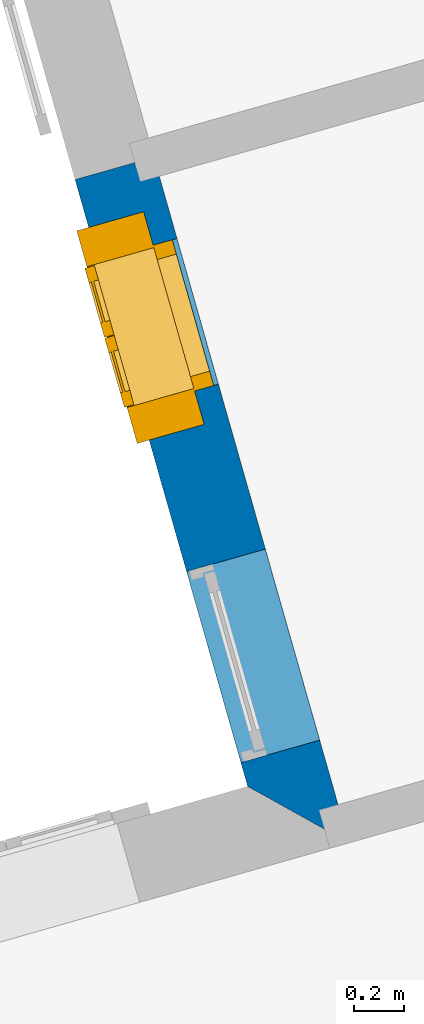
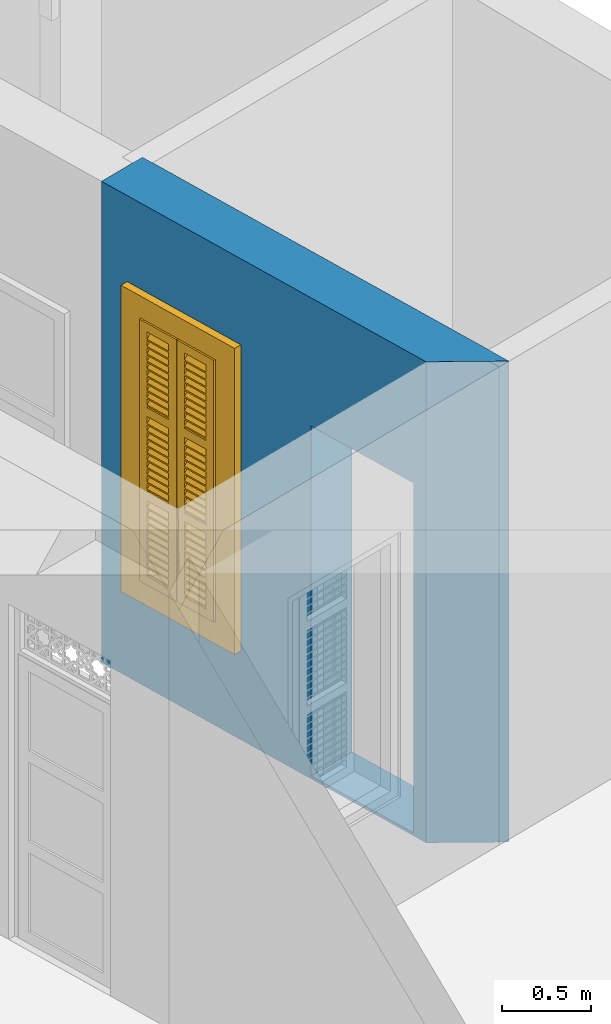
# One storey, part 8 of 14: 1 wall, 1 window, 2 openings.
"""IFC4 building model written with IfcOpenShell, lengths in metres."""

from ifc_helpers import new_model, si_unit, frame, origin, origin_with_axes, place, context, subcontext, project, spatial, polyline, outline, extrude, faceted_brep, source, transform, mapped, material, layer, layer_set, layer_usage, type_object, type_shapes, element, fill, save


model = new_model("IFC4")

# Units and contexts
model_context = context("Model", 3, world=origin_with_axes())
body_context = subcontext(model_context, "Body", "Model", "MODEL_VIEW")
ifc_project = project(units=[si_unit("PLANEANGLEUNIT", "RADIAN"), si_unit("MASSUNIT", "GRAM", prefix="KILO"), si_unit("FORCEUNIT", "NEWTON", prefix="KILO"), si_unit("LENGTHUNIT", "METRE"), si_unit("AREAUNIT", "SQUARE_METRE"), si_unit("VOLUMEUNIT", "CUBIC_METRE")], contexts=[model_context, model_context])

# Site, building, storey
site_placement = place(None, origin_with_axes())
site = spatial("IfcSite", under=ifc_project, at=site_placement, Name="Site plot-3", CompositionType="ELEMENT")
building_placement = place(None, origin_with_axes())
building = spatial("IfcBuilding", under=site, at=building_placement, Name="Building plot-3", CompositionType="ELEMENT")
storey_placement = place(None, origin_with_axes())
storey = spatial("IfcBuildingStorey", under=building, at=storey_placement, Name="plot-3 0", CompositionType="ELEMENT", Elevation=0.0)

# Wall, openings, window
ifc_material = material(Name="Masonry")
ifc_layer = layer(ifc_material, 0.33, ventilated=False)
ifc_layer_set = layer_set([ifc_layer], Name="exterior_0.08_0.25")
ifc_layer_usage = layer_usage(ifc_layer_set, "AXIS2", "POSITIVE", -0.25)
wall_type = type_object("IfcWallType", Name="exterior_0.08_0.25", PredefinedType="SOLIDWALL", material=ifc_layer_set)
wall_placement = place(storey_placement, frame((13.2483149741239, 23.0706030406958, 0.0), z_axis=(0.0, 0.0, 1.0), x_axis=(0.273606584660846, -0.961841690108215, 0.0)))
wall = element("IfcWall", 1, at=wall_placement, inside=storey, type_object=wall_type, material=ifc_layer_usage, Name="exterior", context=body_context, shape_type="SweptSolid", body=[
    extrude(outline(polyline([(1.87007326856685e-15, 0.0800000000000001), (-5.37499477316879e-15, -0.25), (2.54101093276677, -0.250000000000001), (2.87101093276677, 0.0800000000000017), (1.87007326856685e-15, 0.0800000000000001)])), origin_with_axes(), (0.0, 0.0, 1.0), 3.3),
])
opening_1_placement = place(wall_placement, frame((0.340505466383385, 0.0, 0.75)))
opening_1 = element("IfcOpeningElement", 2, at=opening_1_placement, cuts=wall, Name="My Opening", ObjectType="Opening", context=body_context, shape_type="SweptSolid", body=[
    extrude(outline(polyline([(0.0, -0.269999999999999), (0.610000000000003, -0.27), (0.610000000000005, 1.1), (1.94289029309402e-15, 1.1), (0.0, -0.269999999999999)])), origin_with_axes(), (0.0, 0.0, 1.0), 1.82),
])
opening_2_placement = place(wall_placement, frame((1.64101093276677, 0.0, 0.02)))
element("IfcOpeningElement", 3, at=opening_2_placement, cuts=wall, Name="My Opening", ObjectType="Opening", context=body_context, shape_type="SweptSolid", body=[
    extrude(outline(polyline([(0.0, -0.270000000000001), (0.799999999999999, -0.270000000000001), (0.8, 1.1), (1.33226762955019e-15, 1.1), (0.0, -0.270000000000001)])), origin_with_axes(), (0.0, 0.0, 1.0), 2.4),
])
window_type = type_object("IfcWindowType", Name="shuttered_big_narrow", PartitioningType="DOUBLE_PANEL_HORIZONTAL", PredefinedType="NOTDEFINED")
shared_shape = source(origin(), body_context, "Body", "Brep", [
    faceted_brep([(0.074, 0.0, 0.810667), (0.243, 0.0, 0.810667), (0.243, 0.0, 0.800667), (0.074, 0.0, 0.800667), (0.074, -0.04, 0.770667), (0.243, -0.04, 0.770667), (0.243, -0.04, 0.760667), (0.074, -0.04, 0.760667), (0.367, 0.0, 0.232), (0.536, 0.0, 0.232), (0.536, 0.0, 0.222), (0.367, 0.0, 0.222), (0.367, -0.04, 0.192), (0.536, -0.04, 0.192), (0.536, -0.04, 0.182), (0.367, -0.04, 0.182), (0.367, 0.0, 0.532), (0.536, 0.0, 0.532), (0.536, 0.0, 0.522), (0.367, 0.0, 0.522), (0.367, -0.04, 0.492), (0.536, -0.04, 0.492), (0.536, -0.04, 0.482), (0.367, -0.04, 0.482), (0.367, 0.0, 0.482), (0.536, 0.0, 0.482), (0.536, 0.0, 0.472), (0.367, 0.0, 0.472), (0.367, -0.04, 0.442), (0.536, -0.04, 0.442), (0.536, -0.04, 0.432), (0.367, -0.04, 0.432), (0.367, 0.0, 0.582), (0.536, 0.0, 0.582), (0.536, 0.0, 0.572), (0.367, 0.0, 0.572), (0.367, -0.04, 0.542), (0.536, -0.04, 0.542), (0.536, -0.04, 0.532), (0.367, -0.04, 0.532), (0.367, 0.0, 0.182), (0.536, 0.0, 0.182), (0.536, 0.0, 0.172), (0.367, 0.0, 0.172), (0.367, -0.04, 0.142), (0.536, -0.04, 0.142), (0.536, -0.04, 0.132), (0.367, -0.04, 0.132), (0.367, 0.0, 0.382), (0.536, 0.0, 0.382), (0.536, 0.0, 0.372), (0.367, 0.0, 0.372), (0.367, -0.04, 0.342), (0.536, -0.04, 0.342), (0.536, -0.04, 0.332), (0.367, -0.04, 0.332), (0.367, 0.0, 0.432), (0.536, 0.0, 0.432), (0.536, 0.0, 0.422), (0.367, 0.0, 0.422), (0.367, -0.04, 0.392), (0.536, -0.04, 0.392), (0.536, -0.04, 0.382), (0.367, -0.04, 0.382), (0.367, 0.0, 0.132), (0.536, 0.0, 0.132), (0.536, 0.0, 0.122), (0.367, 0.0, 0.122), (0.367, -0.04, 0.092), (0.536, -0.04, 0.092), (0.536, -0.04, 0.082), (0.367, -0.04, 0.082), (0.367, 0.0, 0.282), (0.536, 0.0, 0.282), (0.536, 0.0, 0.272), (0.367, 0.0, 0.272), (0.367, -0.04, 0.242), (0.536, -0.04, 0.242), (0.536, -0.04, 0.232), (0.367, -0.04, 0.232), (0.367, 0.0, 0.332), (0.536, 0.0, 0.332), (0.536, 0.0, 0.322), (0.367, 0.0, 0.322), (0.367, -0.04, 0.292), (0.536, -0.04, 0.292), (0.536, -0.04, 0.282), (0.367, -0.04, 0.282), (0.367, 0.0, 0.810667), (0.536, 0.0, 0.810667), (0.536, 0.0, 0.800667), (0.367, 0.0, 0.800667), (0.367, -0.04, 0.770667), (0.536, -0.04, 0.770667), (0.536, -0.04, 0.760667), (0.367, -0.04, 0.760667), (0.367, 0.0, 1.110667), (0.536, 0.0, 1.110667), (0.536, 0.0, 1.100667), (0.367, 0.0, 1.100667), (0.367, -0.04, 1.070667), (0.536, -0.04, 1.070667), (0.536, -0.04, 1.060667), (0.367, -0.04, 1.060667), (0.367, 0.0, 1.060667), (0.536, 0.0, 1.060667), (0.536, 0.0, 1.050667), (0.367, 0.0, 1.050667), (0.367, -0.04, 1.020667), (0.536, -0.04, 1.020667), (0.536, -0.04, 1.010667), (0.367, -0.04, 1.010667), (0.367, 0.0, 1.160667), (0.536, 0.0, 1.160667), (0.536, 0.0, 1.150667), (0.367, 0.0, 1.150667), (0.367, -0.04, 1.120667), (0.536, -0.04, 1.120667), (0.536, -0.04, 1.110667), (0.367, -0.04, 1.110667), (0.367, 0.0, 0.760667), (0.536, 0.0, 0.760667), (0.536, 0.0, 0.750667), (0.367, 0.0, 0.750667), (0.367, -0.04, 0.720667), (0.536, -0.04, 0.720667), (0.536, -0.04, 0.710667), (0.367, -0.04, 0.710667), (0.367, 0.0, 0.960667), (0.536, 0.0, 0.960667), (0.536, 0.0, 0.950667), (0.367, 0.0, 0.950667), (0.367, -0.04, 0.920667), (0.536, -0.04, 0.920667), (0.536, -0.04, 0.910667), (0.367, -0.04, 0.910667), (0.367, 0.0, 1.010667), (0.536, 0.0, 1.010667), (0.536, 0.0, 1.0), (0.367, 0.0, 1.0), (0.367, -0.04, 0.970667), (0.536, -0.04, 0.970667), (0.536, -0.04, 0.960667), (0.367, -0.04, 0.960667), (0.367, 0.0, 0.710667), (0.536, 0.0, 0.710667), (0.536, 0.0, 0.700667), (0.367, 0.0, 0.700667), (0.367, -0.04, 0.670667), (0.536, -0.04, 0.670667), (0.536, -0.04, 0.660667), (0.367, -0.04, 0.660667), (0.367, 0.0, 0.860667), (0.536, 0.0, 0.860667), (0.536, 0.0, 0.850667), (0.367, 0.0, 0.850667), (0.367, -0.04, 0.820667), (0.536, -0.04, 0.820667), (0.536, -0.04, 0.810667), (0.367, -0.04, 0.810667), (0.367, 0.0, 0.910667), (0.536, 0.0, 0.910667), (0.536, 0.0, 0.900667), (0.367, 0.0, 0.900667), (0.367, -0.04, 0.870667), (0.536, -0.04, 0.870667), (0.536, -0.04, 0.860667), (0.367, -0.04, 0.860667), (0.367, 0.0, 1.389333), (0.536, 0.0, 1.389333), (0.536, 0.0, 1.379333), (0.367, 0.0, 1.379333), (0.367, -0.04, 1.349333), (0.536, -0.04, 1.349333), (0.536, -0.04, 1.339333), (0.367, -0.04, 1.339333), (0.367, 0.0, 1.689333), (0.536, 0.0, 1.689333), (0.536, 0.0, 1.679333), (0.367, 0.0, 1.679333), (0.367, -0.04, 1.649333), (0.536, -0.04, 1.649333), (0.536, -0.04, 1.639333), (0.367, -0.04, 1.639333), (0.367, 0.0, 1.639333), (0.536, 0.0, 1.639333), (0.536, 0.0, 1.629333), (0.367, 0.0, 1.629333), (0.367, -0.04, 1.599333), (0.536, -0.04, 1.599333), (0.536, -0.04, 1.589333), (0.367, -0.04, 1.589333), (0.367, 0.0, 1.739333), (0.536, 0.0, 1.739333), (0.536, 0.0, 1.729333), (0.367, 0.0, 1.729333), (0.367, -0.04, 1.699333), (0.536, -0.04, 1.699333), (0.536, -0.04, 1.689333), (0.367, -0.04, 1.689333), (0.367, 0.0, 1.339333), (0.536, 0.0, 1.339333), (0.536, 0.0, 1.329333), (0.367, 0.0, 1.329333), (0.367, -0.04, 1.299333), (0.536, -0.04, 1.299333), (0.536, -0.04, 1.289333), (0.367, -0.04, 1.289333), (0.367, 0.0, 1.539333), (0.536, 0.0, 1.539333), (0.536, 0.0, 1.529333), (0.367, 0.0, 1.529333), (0.367, -0.04, 1.499333), (0.536, -0.04, 1.499333), (0.536, -0.04, 1.489333), (0.367, -0.04, 1.489333), (0.367, 0.0, 1.589333), (0.536, 0.0, 1.589333), (0.536, 0.0, 1.579333), (0.367, 0.0, 1.579333), (0.367, -0.04, 1.549333), (0.536, -0.04, 1.549333), (0.536, -0.04, 1.539333), (0.367, -0.04, 1.539333), (0.367, 0.0, 1.289333), (0.536, 0.0, 1.289333), (0.536, 0.0, 1.279333), (0.367, 0.0, 1.279333), (0.367, -0.04, 1.249333), (0.536, -0.04, 1.249333), (0.536, -0.04, 1.239333), (0.367, -0.04, 1.239333), (0.367, 0.0, 1.439333), (0.536, 0.0, 1.439333), (0.536, 0.0, 1.429333), (0.367, 0.0, 1.429333), (0.367, -0.04, 1.399333), (0.536, -0.04, 1.399333), (0.536, -0.04, 1.389333), (0.367, -0.04, 1.389333), (0.367, 0.0, 1.489333), (0.536, 0.0, 1.489333), (0.536, 0.0, 1.479333), (0.367, 0.0, 1.479333), (0.367, -0.04, 1.449333), (0.536, -0.04, 1.449333), (0.536, -0.04, 1.439333), (0.367, -0.04, 1.439333), (0.074, 0.0, 0.232), (0.243, 0.0, 0.232), (0.243, 0.0, 0.222), (0.074, 0.0, 0.222), (0.074, -0.04, 0.192), (0.243, -0.04, 0.192), (0.243, -0.04, 0.182), (0.074, -0.04, 0.182), (0.074, 0.0, 0.532), (0.243, 0.0, 0.532), (0.243, 0.0, 0.522), (0.074, 0.0, 0.522), (0.074, -0.04, 0.492), (0.243, -0.04, 0.492), (0.243, -0.04, 0.482), (0.074, -0.04, 0.482), (0.074, 0.0, 0.482), (0.243, 0.0, 0.482), (0.243, 0.0, 0.472), (0.074, 0.0, 0.472), (0.074, -0.04, 0.442), (0.243, -0.04, 0.442), (0.243, -0.04, 0.432), (0.074, -0.04, 0.432), (0.074, 0.0, 0.582), (0.243, 0.0, 0.582), (0.243, 0.0, 0.572), (0.074, 0.0, 0.572), (0.074, -0.04, 0.542), (0.243, -0.04, 0.542), (0.243, -0.04, 0.532), (0.074, -0.04, 0.532), (0.074, 0.0, 0.182), (0.243, 0.0, 0.182), (0.243, 0.0, 0.172), (0.074, 0.0, 0.172), (0.074, -0.04, 0.142), (0.243, -0.04, 0.142), (0.243, -0.04, 0.132), (0.074, -0.04, 0.132), (0.074, 0.0, 0.382), (0.243, 0.0, 0.382), (0.243, 0.0, 0.372), (0.074, 0.0, 0.372), (0.074, -0.04, 0.342), (0.243, -0.04, 0.342), (0.243, -0.04, 0.332), (0.074, -0.04, 0.332), (0.074, 0.0, 0.432), (0.243, 0.0, 0.432), (0.243, 0.0, 0.422), (0.074, 0.0, 0.422), (0.074, -0.04, 0.392), (0.243, -0.04, 0.392), (0.243, -0.04, 0.382), (0.074, -0.04, 0.382), (0.074, 0.0, 0.132), (0.243, 0.0, 0.132), (0.243, 0.0, 0.122), (0.074, 0.0, 0.122), (0.074, -0.04, 0.092), (0.243, -0.04, 0.092), (0.243, -0.04, 0.082), (0.074, -0.04, 0.082), (0.074, 0.0, 0.282), (0.243, 0.0, 0.282), (0.243, 0.0, 0.272), (0.074, 0.0, 0.272), (0.074, -0.04, 0.242), (0.243, -0.04, 0.242), (0.243, -0.04, 0.232), (0.074, -0.04, 0.232), (0.074, 0.0, 0.332), (0.243, 0.0, 0.332), (0.243, 0.0, 0.322), (0.074, 0.0, 0.322), (0.074, -0.04, 0.292), (0.243, -0.04, 0.292), (0.243, -0.04, 0.282), (0.074, -0.04, 0.282), (0.074, 0.0, 1.110667), (0.243, 0.0, 1.110667), (0.243, 0.0, 1.100667), (0.074, 0.0, 1.100667), (0.074, -0.04, 1.070667), (0.243, -0.04, 1.070667), (0.243, -0.04, 1.060667), (0.074, -0.04, 1.060667), (0.074, 0.0, 1.060667), (0.243, 0.0, 1.060667), (0.243, 0.0, 1.050667), (0.074, 0.0, 1.050667), (0.074, -0.04, 1.020667), (0.243, -0.04, 1.020667), (0.243, -0.04, 1.010667), (0.074, -0.04, 1.010667), (0.074, 0.0, 1.160667), (0.243, 0.0, 1.160667), (0.243, 0.0, 1.150667), (0.074, 0.0, 1.150667), (0.074, -0.04, 1.120667), (0.243, -0.04, 1.120667), (0.243, -0.04, 1.110667), (0.074, -0.04, 1.110667), (0.074, 0.0, 0.760667), (0.243, 0.0, 0.760667), (0.243, 0.0, 0.750667), (0.074, 0.0, 0.750667), (0.074, -0.04, 0.720667), (0.243, -0.04, 0.720667), (0.243, -0.04, 0.710667), (0.074, -0.04, 0.710667), (0.074, 0.0, 0.960667), (0.243, 0.0, 0.960667), (0.243, 0.0, 0.950667), (0.074, 0.0, 0.950667), (0.074, -0.04, 0.920667), (0.243, -0.04, 0.920667), (0.243, -0.04, 0.910667), (0.074, -0.04, 0.910667), (0.074, 0.0, 1.010667), (0.243, 0.0, 1.010667), (0.243, 0.0, 1.0), (0.074, 0.0, 1.0), (0.074, -0.04, 0.970667), (0.243, -0.04, 0.970667), (0.243, -0.04, 0.960667), (0.074, -0.04, 0.960667), (0.074, 0.0, 0.710667), (0.243, 0.0, 0.710667), (0.243, 0.0, 0.700667), (0.074, 0.0, 0.700667), (0.074, -0.04, 0.670667), (0.243, -0.04, 0.670667), (0.243, -0.04, 0.660667), (0.074, -0.04, 0.660667), (0.074, 0.0, 0.860667), (0.243, 0.0, 0.860667), (0.243, 0.0, 0.850667), (0.074, 0.0, 0.850667), (0.074, -0.04, 0.820667), (0.243, -0.04, 0.820667), (0.243, -0.04, 0.810667), (0.074, -0.04, 0.810667), (0.074, 0.0, 0.910667), (0.243, 0.0, 0.910667), (0.243, 0.0, 0.900667), (0.074, 0.0, 0.900667), (0.074, -0.04, 0.870667), (0.243, -0.04, 0.870667), (0.243, -0.04, 0.860667), (0.074, -0.04, 0.860667), (0.074, 0.0, 1.389333), (0.243, 0.0, 1.389333), (0.243, 0.0, 1.379333), (0.074, 0.0, 1.379333), (0.074, -0.04, 1.349333), (0.243, -0.04, 1.349333), (0.243, -0.04, 1.339333), (0.074, -0.04, 1.339333), (0.074, 0.0, 1.689333), (0.243, 0.0, 1.689333), (0.243, 0.0, 1.679333), (0.074, 0.0, 1.679333), (0.074, -0.04, 1.649333), (0.243, -0.04, 1.649333), (0.243, -0.04, 1.639333), (0.074, -0.04, 1.639333), (0.074, 0.0, 1.639333), (0.243, 0.0, 1.639333), (0.243, 0.0, 1.629333), (0.074, 0.0, 1.629333), (0.074, -0.04, 1.599333), (0.243, -0.04, 1.599333), (0.243, -0.04, 1.589333), (0.074, -0.04, 1.589333), (0.074, 0.0, 1.739333), (0.243, 0.0, 1.739333), (0.243, 0.0, 1.729333), (0.074, 0.0, 1.729333), (0.074, -0.04, 1.699333), (0.243, -0.04, 1.699333), (0.243, -0.04, 1.689333), (0.074, -0.04, 1.689333), (0.074, 0.0, 1.339333), (0.243, 0.0, 1.339333), (0.243, 0.0, 1.329333), (0.074, 0.0, 1.329333), (0.074, -0.04, 1.299333), (0.243, -0.04, 1.299333), (0.243, -0.04, 1.289333), (0.074, -0.04, 1.289333), (0.074, 0.0, 1.539333), (0.243, 0.0, 1.539333), (0.243, 0.0, 1.529333), (0.074, 0.0, 1.529333), (0.074, -0.04, 1.499333), (0.243, -0.04, 1.499333), (0.243, -0.04, 1.489333), (0.074, -0.04, 1.489333), (0.074, 0.0, 1.589333), (0.243, 0.0, 1.589333), (0.243, 0.0, 1.579333), (0.074, 0.0, 1.579333), (0.074, -0.04, 1.549333), (0.243, -0.04, 1.549333), (0.243, -0.04, 1.539333), (0.074, -0.04, 1.539333), (0.074, 0.0, 1.289333), (0.243, 0.0, 1.289333), (0.243, 0.0, 1.279333), (0.074, 0.0, 1.279333), (0.074, -0.04, 1.249333), (0.243, -0.04, 1.249333), (0.243, -0.04, 1.239333), (0.074, -0.04, 1.239333), (0.074, 0.0, 1.439333), (0.243, 0.0, 1.439333), (0.243, 0.0, 1.429333), (0.074, 0.0, 1.429333), (0.074, -0.04, 1.399333), (0.243, -0.04, 1.399333), (0.243, -0.04, 1.389333), (0.074, -0.04, 1.389333), (0.074, 0.0, 1.489333), (0.243, 0.0, 1.489333), (0.243, 0.0, 1.479333), (0.074, 0.0, 1.479333), (0.074, -0.04, 1.449333), (0.243, -0.04, 1.449333), (0.243, -0.04, 1.439333), (0.074, -0.04, 1.439333), (0.367, -0.04, 0.072), (0.307, -0.04, 0.012), (0.596, -0.04, 0.012), (0.536, -0.04, 0.072), (0.307, -0.04, 0.590667), (0.367, -0.04, 0.590667), (0.307, 0.0, 0.012), (0.596, 0.0, 0.012), (0.536, -0.04, 0.590667), (0.596, -0.04, 0.590667), (0.536, 0.0, 0.072), (0.367, 0.0, 0.072), (0.307, 0.0, 0.590667), (0.367, 0.0, 0.590667), (0.367, -0.04, 0.650667), (0.307, -0.04, 0.650667), (0.596, 0.0, 0.590667), (0.536, 0.0, 0.590667), (0.536, -0.04, 0.650667), (0.596, -0.04, 0.650667), (0.307, 0.0, 0.650667), (0.307, -0.04, 1.169333), (0.367, -0.04, 1.169333), (0.596, 0.0, 0.650667), (0.536, -0.04, 1.169333), (0.596, -0.04, 1.169333), (0.307, 0.0, 1.169333), (0.367, 0.0, 0.650667), (0.536, 0.0, 0.650667), (0.367, 0.0, 1.169333), (0.367, -0.04, 1.229333), (0.307, -0.04, 1.229333), (0.596, 0.0, 1.169333), (0.536, 0.0, 1.169333), (0.536, -0.04, 1.229333), (0.596, -0.04, 1.229333), (0.307, 0.0, 1.229333), (0.367, -0.04, 1.748), (0.307, -0.04, 1.808), (0.596, 0.0, 1.229333), (0.596, -0.04, 1.808), (0.536, -0.04, 1.748), (0.307, 0.0, 1.808), (0.367, 0.0, 1.229333), (0.536, 0.0, 1.229333), (0.367, 0.0, 1.748), (0.596, 0.0, 1.808), (0.536, 0.0, 1.748), (0.074, -0.04, 0.072), (0.014, -0.04, 0.012), (0.303, -0.04, 0.012), (0.243, -0.04, 0.072), (0.014, -0.04, 0.590667), (0.074, -0.04, 0.590667), (0.014, 0.0, 0.012), (0.303, 0.0, 0.012), (0.243, -0.04, 0.590667), (0.303, -0.04, 0.590667), (0.243, 0.0, 0.072), (0.074, 0.0, 0.072), (0.014, 0.0, 0.590667), (0.074, 0.0, 0.590667), (0.074, -0.04, 0.650667), (0.014, -0.04, 0.650667), (0.303, 0.0, 0.590667), (0.243, 0.0, 0.590667), (0.243, -0.04, 0.650667), (0.303, -0.04, 0.650667), (0.014, 0.0, 0.650667), (0.014, -0.04, 1.169333), (0.074, -0.04, 1.169333), (0.303, 0.0, 0.650667), (0.243, -0.04, 1.169333), (0.303, -0.04, 1.169333), (0.014, 0.0, 1.169333), (0.074, 0.0, 0.650667), (0.243, 0.0, 0.650667), (0.074, 0.0, 1.169333), (0.074, -0.04, 1.229333), (0.014, -0.04, 1.229333), (0.303, 0.0, 1.169333), (0.243, 0.0, 1.169333), (0.243, -0.04, 1.229333), (0.303, -0.04, 1.229333), (0.014, 0.0, 1.229333), (0.074, -0.04, 1.748), (0.014, -0.04, 1.808), (0.303, 0.0, 1.229333), (0.303, -0.04, 1.808), (0.243, -0.04, 1.748), (0.014, 0.0, 1.808), (0.074, 0.0, 1.229333), (0.243, 0.0, 1.229333), (0.074, 0.0, 1.748), (0.303, 0.0, 1.808), (0.243, 0.0, 1.748), (0.0, 0.33, 1.82), (0.61, 0.33, 1.82), (0.55, 0.33, 1.76), (0.06, 0.33, 1.76), (0.75, -0.03, 1.96), (0.75, 0.25, 1.96), (-0.14, 0.25, 1.96), (-0.14, -0.03, 1.96), (0.0, 0.25, 1.82), (0.61, 0.25, 1.82), (0.6, 0.25, 1.81), (0.01, 0.25, 1.81), (0.55, 0.33, 0.06), (0.61, 0.33, 0.0), (0.55, 0.25, 1.76), (0.06, 0.25, 1.76), (0.0, 0.33, 0.0), (0.06, 0.33, 0.06), (0.0, 0.25, 0.0), (0.610046, 0.25, 1.82), (0.61, 0.25, 0.0), (0.55, 0.25, 0.06), (0.06, 0.25, 0.06), (0.6, 0.25, 0.01), (0.6, -0.03, 0.01), (0.6, -0.03, 1.81), (0.01, -0.03, 0.01), (-0.14, -0.03, -0.14), (0.75, -0.03, -0.14), (0.01, -0.03, 1.81), (0.01, 0.25, 0.01), (0.75, 0.25, -0.14), (-0.14, 0.25, -0.14)], [[[0, 1, 2, 3]], [[1, 0, 4, 5]], [[2, 1, 5, 6]], [[6, 7, 3, 2]], [[7, 4, 0, 3]], [[5, 4, 7, 6]], [[8, 9, 10, 11]], [[12, 13, 9, 8]], [[13, 14, 10, 9]], [[14, 15, 11, 10]], [[15, 12, 8, 11]], [[13, 12, 15, 14]], [[16, 17, 18, 19]], [[20, 21, 17, 16]], [[21, 22, 18, 17]], [[22, 23, 19, 18]], [[23, 20, 16, 19]], [[21, 20, 23, 22]], [[24, 25, 26, 27]], [[28, 29, 25, 24]], [[29, 30, 26, 25]], [[30, 31, 27, 26]], [[31, 28, 24, 27]], [[29, 28, 31, 30]], [[32, 33, 34, 35]], [[36, 37, 33, 32]], [[37, 38, 34, 33]], [[38, 39, 35, 34]], [[39, 36, 32, 35]], [[37, 36, 39, 38]], [[40, 41, 42, 43]], [[44, 45, 41, 40]], [[45, 46, 42, 41]], [[46, 47, 43, 42]], [[47, 44, 40, 43]], [[45, 44, 47, 46]], [[48, 49, 50, 51]], [[52, 53, 49, 48]], [[53, 54, 50, 49]], [[54, 55, 51, 50]], [[55, 52, 48, 51]], [[53, 52, 55, 54]], [[56, 57, 58, 59]], [[60, 61, 57, 56]], [[61, 62, 58, 57]], [[62, 63, 59, 58]], [[63, 60, 56, 59]], [[61, 60, 63, 62]], [[64, 65, 66, 67]], [[68, 69, 65, 64]], [[69, 70, 66, 65]], [[70, 71, 67, 66]], [[71, 68, 64, 67]], [[69, 68, 71, 70]], [[72, 73, 74, 75]], [[76, 77, 73, 72]], [[77, 78, 74, 73]], [[78, 79, 75, 74]], [[79, 76, 72, 75]], [[77, 76, 79, 78]], [[80, 81, 82, 83]], [[84, 85, 81, 80]], [[85, 86, 82, 81]], [[86, 87, 83, 82]], [[87, 84, 80, 83]], [[85, 84, 87, 86]], [[88, 89, 90, 91]], [[92, 93, 89, 88]], [[93, 94, 90, 89]], [[94, 95, 91, 90]], [[95, 92, 88, 91]], [[93, 92, 95, 94]], [[96, 97, 98, 99]], [[100, 101, 97, 96]], [[101, 102, 98, 97]], [[102, 103, 99, 98]], [[103, 100, 96, 99]], [[101, 100, 103, 102]], [[104, 105, 106, 107]], [[108, 109, 105, 104]], [[109, 110, 106, 105]], [[110, 111, 107, 106]], [[111, 108, 104, 107]], [[109, 108, 111, 110]], [[112, 113, 114, 115]], [[116, 117, 113, 112]], [[117, 118, 114, 113]], [[118, 119, 115, 114]], [[119, 116, 112, 115]], [[117, 116, 119, 118]], [[120, 121, 122, 123]], [[124, 125, 121, 120]], [[125, 126, 122, 121]], [[126, 127, 123, 122]], [[127, 124, 120, 123]], [[125, 124, 127, 126]], [[128, 129, 130, 131]], [[132, 133, 129, 128]], [[133, 134, 130, 129]], [[134, 135, 131, 130]], [[135, 132, 128, 131]], [[133, 132, 135, 134]], [[136, 137, 138, 139]], [[140, 141, 137, 136]], [[141, 142, 138, 137]], [[142, 143, 139, 138]], [[143, 140, 136, 139]], [[141, 140, 143, 142]], [[144, 145, 146, 147]], [[148, 149, 145, 144]], [[149, 150, 146, 145]], [[150, 151, 147, 146]], [[151, 148, 144, 147]], [[149, 148, 151, 150]], [[152, 153, 154, 155]], [[156, 157, 153, 152]], [[157, 158, 154, 153]], [[158, 159, 155, 154]], [[159, 156, 152, 155]], [[157, 156, 159, 158]], [[160, 161, 162, 163]], [[164, 165, 161, 160]], [[165, 166, 162, 161]], [[166, 167, 163, 162]], [[167, 164, 160, 163]], [[165, 164, 167, 166]], [[168, 169, 170, 171]], [[172, 173, 169, 168]], [[173, 174, 170, 169]], [[174, 175, 171, 170]], [[175, 172, 168, 171]], [[173, 172, 175, 174]], [[176, 177, 178, 179]], [[180, 181, 177, 176]], [[181, 182, 178, 177]], [[182, 183, 179, 178]], [[183, 180, 176, 179]], [[181, 180, 183, 182]], [[184, 185, 186, 187]], [[188, 189, 185, 184]], [[189, 190, 186, 185]], [[190, 191, 187, 186]], [[191, 188, 184, 187]], [[189, 188, 191, 190]], [[192, 193, 194, 195]], [[196, 197, 193, 192]], [[197, 198, 194, 193]], [[198, 199, 195, 194]], [[199, 196, 192, 195]], [[197, 196, 199, 198]], [[200, 201, 202, 203]], [[204, 205, 201, 200]], [[205, 206, 202, 201]], [[206, 207, 203, 202]], [[207, 204, 200, 203]], [[205, 204, 207, 206]], [[208, 209, 210, 211]], [[212, 213, 209, 208]], [[213, 214, 210, 209]], [[214, 215, 211, 210]], [[215, 212, 208, 211]], [[213, 212, 215, 214]], [[216, 217, 218, 219]], [[220, 221, 217, 216]], [[221, 222, 218, 217]], [[222, 223, 219, 218]], [[223, 220, 216, 219]], [[221, 220, 223, 222]], [[224, 225, 226, 227]], [[228, 229, 225, 224]], [[229, 230, 226, 225]], [[230, 231, 227, 226]], [[231, 228, 224, 227]], [[229, 228, 231, 230]], [[232, 233, 234, 235]], [[236, 237, 233, 232]], [[237, 238, 234, 233]], [[238, 239, 235, 234]], [[239, 236, 232, 235]], [[237, 236, 239, 238]], [[240, 241, 242, 243]], [[244, 245, 241, 240]], [[245, 246, 242, 241]], [[246, 247, 243, 242]], [[247, 244, 240, 243]], [[245, 244, 247, 246]], [[248, 249, 250, 251]], [[252, 253, 249, 248]], [[253, 254, 250, 249]], [[254, 255, 251, 250]], [[255, 252, 248, 251]], [[253, 252, 255, 254]], [[256, 257, 258, 259]], [[260, 261, 257, 256]], [[261, 262, 258, 257]], [[262, 263, 259, 258]], [[263, 260, 256, 259]], [[261, 260, 263, 262]], [[264, 265, 266, 267]], [[268, 269, 265, 264]], [[269, 270, 266, 265]], [[270, 271, 267, 266]], [[271, 268, 264, 267]], [[269, 268, 271, 270]], [[272, 273, 274, 275]], [[276, 277, 273, 272]], [[277, 278, 274, 273]], [[278, 279, 275, 274]], [[279, 276, 272, 275]], [[277, 276, 279, 278]], [[280, 281, 282, 283]], [[284, 285, 281, 280]], [[285, 286, 282, 281]], [[286, 287, 283, 282]], [[287, 284, 280, 283]], [[285, 284, 287, 286]], [[288, 289, 290, 291]], [[292, 293, 289, 288]], [[293, 294, 290, 289]], [[294, 295, 291, 290]], [[295, 292, 288, 291]], [[293, 292, 295, 294]], [[296, 297, 298, 299]], [[300, 301, 297, 296]], [[301, 302, 298, 297]], [[302, 303, 299, 298]], [[303, 300, 296, 299]], [[301, 300, 303, 302]], [[304, 305, 306, 307]], [[308, 309, 305, 304]], [[309, 310, 306, 305]], [[310, 311, 307, 306]], [[311, 308, 304, 307]], [[309, 308, 311, 310]], [[312, 313, 314, 315]], [[316, 317, 313, 312]], [[317, 318, 314, 313]], [[318, 319, 315, 314]], [[319, 316, 312, 315]], [[317, 316, 319, 318]], [[320, 321, 322, 323]], [[324, 325, 321, 320]], [[325, 326, 322, 321]], [[326, 327, 323, 322]], [[327, 324, 320, 323]], [[325, 324, 327, 326]], [[328, 329, 330, 331]], [[332, 333, 329, 328]], [[333, 334, 330, 329]], [[334, 335, 331, 330]], [[335, 332, 328, 331]], [[333, 332, 335, 334]], [[336, 337, 338, 339]], [[340, 341, 337, 336]], [[341, 342, 338, 337]], [[342, 343, 339, 338]], [[343, 340, 336, 339]], [[341, 340, 343, 342]], [[344, 345, 346, 347]], [[348, 349, 345, 344]], [[349, 350, 346, 345]], [[350, 351, 347, 346]], [[351, 348, 344, 347]], [[349, 348, 351, 350]], [[352, 353, 354, 355]], [[356, 357, 353, 352]], [[357, 358, 354, 353]], [[358, 359, 355, 354]], [[359, 356, 352, 355]], [[357, 356, 359, 358]], [[360, 361, 362, 363]], [[364, 365, 361, 360]], [[365, 366, 362, 361]], [[366, 367, 363, 362]], [[367, 364, 360, 363]], [[366, 365, 364, 367]], [[368, 369, 370, 371]], [[372, 373, 369, 368]], [[373, 374, 370, 369]], [[374, 375, 371, 370]], [[375, 372, 368, 371]], [[373, 372, 375, 374]], [[376, 377, 378, 379]], [[380, 381, 377, 376]], [[381, 382, 378, 377]], [[382, 383, 379, 378]], [[383, 380, 376, 379]], [[381, 380, 383, 382]], [[384, 385, 386, 387]], [[388, 389, 385, 384]], [[389, 390, 386, 385]], [[390, 391, 387, 386]], [[391, 388, 384, 387]], [[389, 388, 391, 390]], [[392, 393, 394, 395]], [[396, 397, 393, 392]], [[397, 398, 394, 393]], [[398, 399, 395, 394]], [[399, 396, 392, 395]], [[397, 396, 399, 398]], [[400, 401, 402, 403]], [[404, 405, 401, 400]], [[405, 406, 402, 401]], [[406, 407, 403, 402]], [[407, 404, 400, 403]], [[405, 404, 407, 406]], [[408, 409, 410, 411]], [[412, 413, 409, 408]], [[413, 414, 410, 409]], [[414, 415, 411, 410]], [[415, 412, 408, 411]], [[414, 413, 412, 415]], [[416, 417, 418, 419]], [[420, 421, 417, 416]], [[421, 422, 418, 417]], [[422, 423, 419, 418]], [[423, 420, 416, 419]], [[421, 420, 423, 422]], [[424, 425, 426, 427]], [[428, 429, 425, 424]], [[429, 430, 426, 425]], [[430, 431, 427, 426]], [[431, 428, 424, 427]], [[429, 428, 431, 430]], [[432, 433, 434, 435]], [[436, 437, 433, 432]], [[437, 438, 434, 433]], [[438, 439, 435, 434]], [[439, 436, 432, 435]], [[437, 436, 439, 438]], [[440, 441, 442, 443]], [[444, 445, 441, 440]], [[445, 446, 442, 441]], [[446, 447, 443, 442]], [[447, 444, 440, 443]], [[445, 444, 447, 446]], [[448, 449, 450, 451]], [[452, 453, 449, 448]], [[453, 454, 450, 449]], [[454, 455, 451, 450]], [[455, 452, 448, 451]], [[453, 452, 455, 454]], [[456, 457, 458, 459]], [[460, 461, 457, 456]], [[461, 462, 458, 457]], [[462, 463, 459, 458]], [[463, 460, 456, 459]], [[461, 460, 463, 462]], [[464, 465, 466, 467]], [[468, 469, 465, 464]], [[469, 470, 466, 465]], [[470, 471, 467, 466]], [[471, 468, 464, 467]], [[469, 468, 471, 470]], [[472, 473, 474, 475]], [[476, 477, 473, 472]], [[477, 478, 474, 473]], [[478, 479, 475, 474]], [[479, 476, 472, 475]], [[477, 476, 479, 478]], [[480, 481, 482, 483]], [[484, 481, 480, 485]], [[486, 487, 482, 481]], [[488, 483, 482, 489]], [[480, 483, 490, 491]], [[486, 481, 484, 492]], [[485, 480, 491, 493]], [[485, 494, 495, 484]], [[486, 491, 490, 487]], [[496, 489, 482, 487]], [[483, 488, 497, 490]], [[498, 488, 489, 499]], [[492, 484, 495, 500]], [[486, 492, 493, 491]], [[488, 485, 493, 497]], [[494, 485, 488, 498]], [[501, 495, 494, 502]], [[490, 497, 496, 487]], [[503, 499, 489, 496]], [[504, 498, 499, 505]], [[500, 495, 501, 506]], [[507, 493, 492, 500]], [[493, 507, 508, 497]], [[494, 498, 508, 507]], [[502, 494, 507, 509]], [[502, 510, 511, 501]], [[497, 508, 503, 496]], [[512, 505, 499, 503]], [[498, 504, 513, 508]], [[514, 504, 505, 515]], [[506, 501, 511, 516]], [[500, 506, 509, 507]], [[504, 502, 509, 513]], [[510, 502, 504, 514]], [[510, 517, 518, 511]], [[508, 513, 512, 503]], [[519, 515, 505, 512]], [[515, 520, 521, 514]], [[516, 511, 518, 522]], [[523, 509, 506, 516]], [[509, 523, 524, 513]], [[510, 514, 524, 523]], [[517, 510, 523, 525]], [[518, 517, 521, 520]], [[513, 524, 519, 512]], [[526, 520, 515, 519]], [[514, 521, 527, 524]], [[522, 518, 520, 526]], [[525, 523, 516, 522]], [[521, 517, 525, 527]], [[526, 519, 524, 527]], [[525, 522, 526, 527]], [[528, 529, 530, 531]], [[532, 529, 528, 533]], [[534, 535, 530, 529]], [[536, 531, 530, 537]], [[528, 531, 538, 539]], [[534, 529, 532, 540]], [[533, 528, 539, 541]], [[533, 542, 543, 532]], [[534, 539, 538, 535]], [[544, 537, 530, 535]], [[531, 536, 545, 538]], [[546, 536, 537, 547]], [[540, 532, 543, 548]], [[534, 540, 541, 539]], [[536, 533, 541, 545]], [[542, 533, 536, 546]], [[549, 543, 542, 550]], [[538, 545, 544, 535]], [[551, 547, 537, 544]], [[552, 546, 547, 553]], [[548, 543, 549, 554]], [[555, 541, 540, 548]], [[541, 555, 556, 545]], [[542, 546, 556, 555]], [[550, 542, 555, 557]], [[550, 558, 559, 549]], [[545, 556, 551, 544]], [[560, 553, 547, 551]], [[546, 552, 561, 556]], [[562, 552, 553, 563]], [[554, 549, 559, 564]], [[548, 554, 557, 555]], [[552, 550, 557, 561]], [[558, 550, 552, 562]], [[558, 565, 566, 559]], [[556, 561, 560, 551]], [[567, 563, 553, 560]], [[563, 568, 569, 562]], [[564, 559, 566, 570]], [[571, 557, 554, 564]], [[557, 571, 572, 561]], [[558, 562, 572, 571]], [[565, 558, 571, 573]], [[566, 565, 569, 568]], [[561, 572, 567, 560]], [[574, 568, 563, 567]], [[562, 569, 575, 572]], [[570, 566, 568, 574]], [[573, 571, 564, 570]], [[569, 565, 573, 575]], [[574, 567, 572, 575]], [[573, 570, 574, 575]], [[576, 577, 578, 579]], [[580, 581, 582, 583]], [[576, 584, 585, 577]], [[582, 581, 586, 587]], [[588, 578, 577, 589]], [[579, 578, 590, 591]], [[592, 576, 579, 593]], [[576, 592, 594, 584]], [[595, 584, 591, 590]], [[596, 585, 595]], [[595, 590, 597]], [[595, 597, 596]], [[589, 577, 585, 596]], [[578, 588, 597, 590]], [[589, 592, 593, 588]], [[593, 579, 591, 598]], [[592, 589, 596, 594]], [[598, 591, 584, 594]], [[594, 596, 597, 598]], [[588, 593, 598, 597]], [[599, 600, 601, 586]], [[602, 603, 604, 600]], [[601, 605, 587, 586]], [[600, 599, 606, 602]], [[607, 604, 603, 608]], [[599, 607, 608, 606]], [[605, 602, 606, 587]], [[602, 605, 583, 603]], [[600, 604, 580, 601]], [[580, 583, 605, 601]], [[606, 608, 582, 587]], [[599, 586, 581, 607]], [[582, 608, 603, 583]], [[580, 604, 607, 581]]]),
])
type_shapes(window_type, [shared_shape])
window_placement = place(storey_placement, frame((13.0817822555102, 22.6692169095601, 0.75), z_axis=(0.0, 0.0, 1.0), x_axis=(0.166900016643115, -0.586723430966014, 0.0)))
window = element("IfcWindow", 4, at=window_placement, inside=storey, type_object=window_type, Name="toilet sahn window", OverallHeight=1.82, OverallWidth=0.61, context=body_context, shape_type="MappedRepresentation", body=[
    mapped(shared_shape, transform((0.0, 0.0, 0.0), scale=1.0)),
])
fill(opening_1, window)

save(model, "model.ifc")
